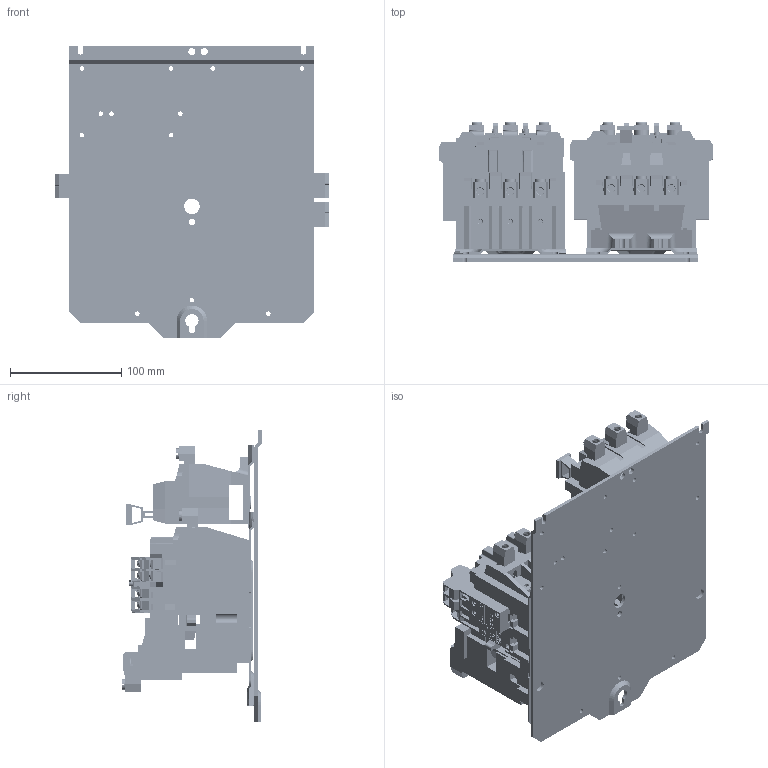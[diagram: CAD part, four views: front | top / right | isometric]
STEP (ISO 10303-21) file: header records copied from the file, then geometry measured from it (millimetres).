
FILE_DESCRIPTION((''),'2;1');
FILE_NAME('10006961990_ASM','2025-09-12T15:34:00',('SN5'),('Rockwell Automation'),'CREO PARAMETRIC BY PTC INC, 2022424','CREO PARAMETRIC BY PTC INC, 2022424','');
FILE_SCHEMA(('AUTOMOTIVE_DESIGN { 1 0 10303 214 1 1 1 1 }'));
Length unit declared in the file: inch
Products named in the file (5): 40420-058; 10006961988; 10006961989; 40481-X316012; 10006961990_ASM
Assembly tree (9 placements, depth 2):
  10006961990_ASM
    40420-058
    10006961988
    10006961989
    40481-X316012  x6
Bounding box: 245.42 x 125.45 x 262.64 mm (x, y, z)
Volume: 1568991.5 mm3; surface area: 793308 mm2
Topology: 38 solids, 89 shells, 27578 faces, 78399 edges, 51237 vertices
Faces by surface type: plane 25091, cylinder 2220, cone 156, torus 78, bspline 33
Entity records: 1131421 total; most frequent: CARTESIAN_POINT 164203, ORIENTED_EDGE 152382, DIRECTION 135462, PRESENTATION_STYLE_ASSIGNMENT 81010, STYLED_ITEM 78099, CURVE_STYLE 78021, EDGE_CURVE 78021, VECTOR 71690
